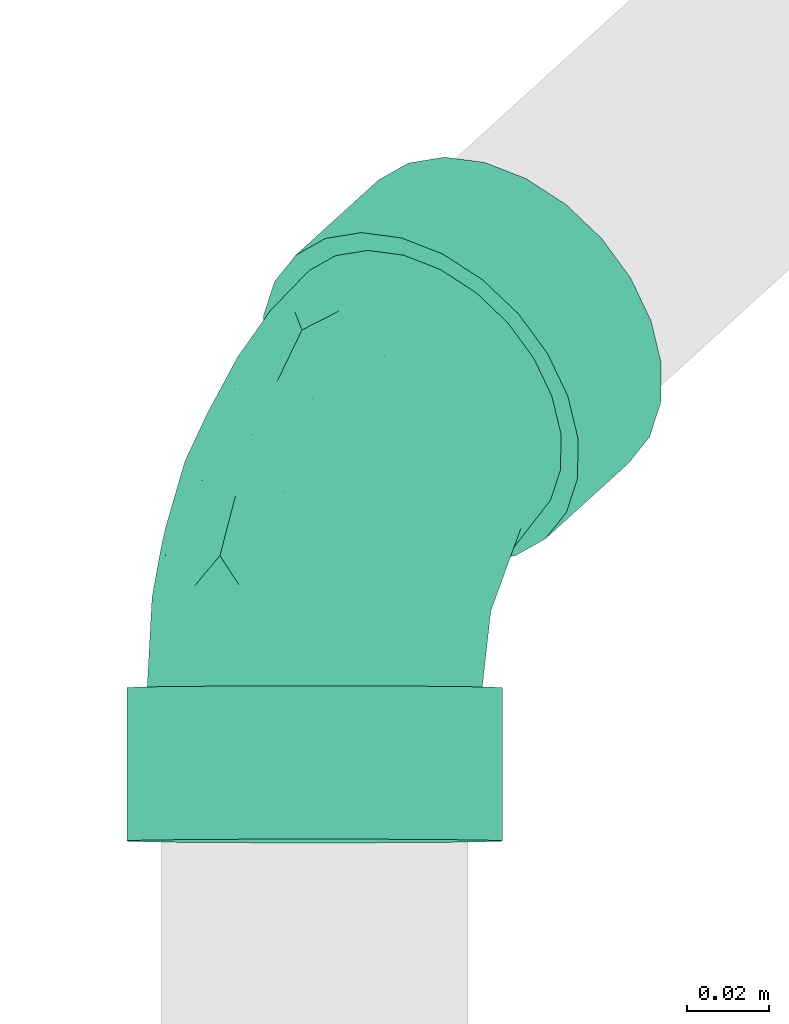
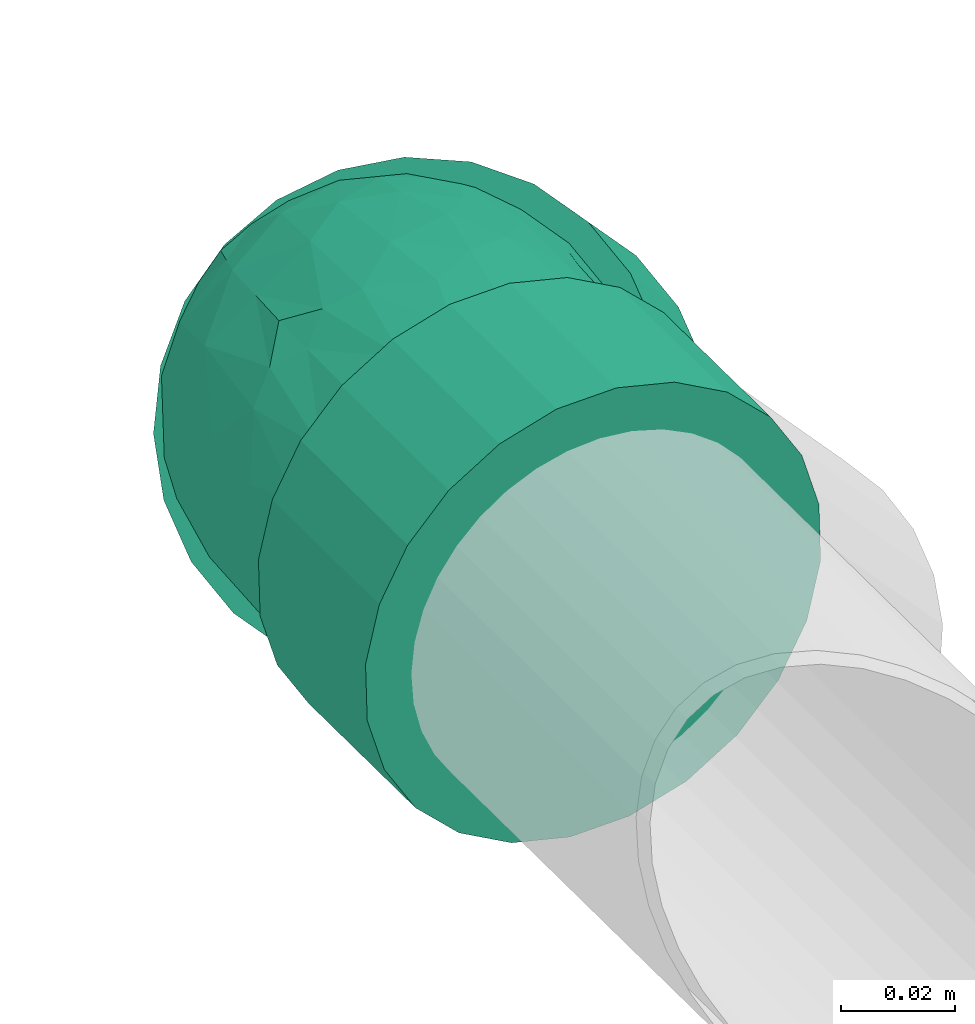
# One storey, part 15 of 17: 1 flow fitting.
"""IFC2X3 building model written with IfcOpenShell, lengths in millimetres."""

from ifc_helpers import new_model, entity, si_unit, converted_unit, derived_unit, direction, frame, origin_with_axes, place, context, subcontext, project, spatial, open_shell, surface_model, source, transform, mapped, type_object, element, save


model = new_model("IFC2X3")

# Units and contexts
model_context = context("Model", 3, precision=0.01, world=frame((0.0, 4.29681676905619e-09, 0.0)), true_north=direction((4.01073788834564e-13, 1.0)))
plan_context = context("Plan", 3, precision=0.01, world=frame((0.0, 4.29681676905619e-09, 0.0)), true_north=direction((4.01073788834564e-13, 1.0)))
body_context = subcontext(model_context, "Body", "Model", "MODEL_VIEW")
ifc_project = project(units=[converted_unit("PLANEANGLEUNIT", "DEGREE", entity("IfcPositiveLengthMeasure", 0.0174532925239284), si_unit("PLANEANGLEUNIT", "RADIAN"), dimensions=[0, 0, 0, 0, 0, 0, 0]), si_unit("AREAUNIT", "SQUARE_METRE"), si_unit("LENGTHUNIT", "METRE", prefix="MILLI"), si_unit("MASSUNIT", "GRAM", prefix="KILO"), si_unit("POWERUNIT", "WATT"), si_unit("PRESSUREUNIT", "PASCAL", prefix="KILO"), si_unit("FORCEUNIT", "NEWTON", prefix="KILO"), si_unit("ELECTRICVOLTAGEUNIT", "VOLT"), si_unit("ELECTRICCURRENTUNIT", "AMPERE"), si_unit("THERMODYNAMICTEMPERATUREUNIT", "DEGREE_CELSIUS"), si_unit("TIMEUNIT", "SECOND"), si_unit("VOLUMEUNIT", "CUBIC_METRE"), derived_unit("LINEARVELOCITYUNIT", [(si_unit("LENGTHUNIT", "METRE"), 1), (si_unit("TIMEUNIT", "SECOND"), -1)]), derived_unit("VOLUMETRICFLOWRATEUNIT", [(si_unit("VOLUMEUNIT", "CUBIC_METRE"), 1), (si_unit("TIMEUNIT", "SECOND"), -1)]), derived_unit("THERMALTRANSMITTANCEUNIT", [(si_unit("POWERUNIT", "WATT"), 1), (si_unit("THERMODYNAMICTEMPERATUREUNIT", "KELVIN"), -1), (si_unit("AREAUNIT", "SQUARE_METRE"), -1)]), derived_unit("SOUNDPRESSUREUNIT", [(si_unit("PRESSUREUNIT", "PASCAL"), 1)])], contexts=[model_context, plan_context])

# Site, building, storey
site_placement = place(None, frame((0.0, -4.29681676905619e-09, 0.0), z_axis=(0.0, 0.0, 1.0), x_axis=(1.0, 0.0, 0.0)))
site = spatial("IfcSite", under=ifc_project, at=site_placement, Name="ENGM", CompositionType="ELEMENT")
building_placement = place(site_placement, frame((0.0, 4.29681676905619e-09, 0.0), z_axis=(0.0, 0.0, 1.0), x_axis=(1.0, 0.0, 0.0)))
building = spatial("IfcBuilding", under=site, at=building_placement, Name="TI", CompositionType="ELEMENT")
storey_placement = place(building_placement, frame((0.0, 0.0, 207370.0), z_axis=(0.0, 0.0, 1.0), x_axis=(1.0, 0.0, 0.0)))
storey = spatial("IfcBuildingStorey", under=building, at=storey_placement, Name="Nivå E", CompositionType="ELEMENT", Elevation=207370.0)

# Flow fitting
pipe_fitting_type = type_object("IfcPipeFittingType", Name="magi_sewer_bend_001", PredefinedType="BEND")
shared_shape = source(origin_with_axes(), body_context, "Body", "SurfaceModel", [
    surface_model("IfcShellBasedSurfaceModel", [(-85.16683, -44.67407, -11.97038), (-85.16683, -11.97038, -44.67407), (-85.16683, -23.125, -40.05367), (-85.16683, -32.70369, -32.70369), (-85.16683, 0.0, -46.25), (-85.16683, -40.05367, -23.125), (-85.16683, -46.25, 0.0), (-85.16683, 11.97038, -44.67407), (-85.16683, 32.70369, -32.70369), (-85.16683, 23.125, -40.05367), (-85.16683, 44.67407, -11.97038), (-85.16683, 40.05367, -23.125), (-85.16683, -32.70369, 32.70369), (-85.16683, -44.67407, 11.97038), (-85.16683, -40.05367, 23.125), (-85.16683, 40.05367, 23.125), (-85.16683, -23.125, 40.05367), (-85.16683, -11.97038, 44.67407), (-85.16683, 0.0, 46.25), (-85.16683, 11.97038, 44.67407), (-85.16683, 44.67407, 11.97038), (-85.16683, 46.25, 0.0), (-85.16683, 23.125, 40.05367), (-85.16683, 32.70369, 32.70369), (-47.66684, 0.0, 46.25), (-47.66684, -11.97038, 44.67407), (-47.66684, -23.125, 40.05367), (-47.66684, -32.70369, 32.70369), (-47.66684, -40.05367, 23.125), (-47.66684, -44.67407, 11.97038), (-47.66684, 40.05367, 23.125), (-47.66684, -44.67407, -11.97038), (-47.66684, 23.125, 40.05367), (-47.66684, 32.70369, 32.70369), (-47.66684, 11.97038, 44.67407), (-47.66684, 44.67407, 11.97038), (-47.66684, 44.67407, -11.97038), (-47.66684, 46.25, 0.0), (-47.66684, -32.70369, -32.70369), (-47.66684, -40.05367, -23.125), (-47.66684, -23.125, -40.05367), (-47.66684, -11.97038, -44.67407), (-47.66684, 11.97038, -44.67407), (-47.66684, 32.70369, -32.70369), (-47.66684, 40.05367, -23.125), (-47.66684, 23.125, -40.05367), (-47.66684, 0.0, -46.25), (-47.66684, -46.25, 0.0), (32.16539, 79.76257, 44.67407), (3.83263, 96.09617, 11.97038), (7.8355, 93.78854, 23.125), (14.20314, 90.11766, 32.70369), (2.46733, 96.88325, 0.0), (22.50161, 85.33365, 40.05367), (42.53589, 73.78406, 46.25), (7.8355, 93.78854, -23.125), (3.83263, 96.09617, -11.97038), (14.20314, 90.11766, -32.70369), (32.16539, 79.76257, -44.67407), (22.50161, 85.33365, -40.05367), (52.9064, 67.80555, 44.67407), (62.57018, 62.23446, 40.05367), (70.86865, 57.45046, 32.70369), (81.23915, 51.47195, -11.97038), (81.23915, 51.47195, 11.97038), (82.60446, 50.68487, 0.0), (77.23629, 53.77957, 23.125), (52.9064, 67.80555, -44.67407), (42.53589, 73.78406, -46.25), (62.57018, 62.23446, -40.05367), (77.23629, 53.77957, -23.125), (70.86865, 57.45046, -32.70369), (62.51008, 18.98393, -11.97038), (63.87538, 18.19684, 0.0), (62.51008, 18.98393, 11.97038), (58.50721, 21.29155, 23.125), (43.8411, 29.74644, 40.05367), (34.17733, 35.31752, 44.67407), (52.13957, 24.96244, 32.70369), (13.43631, 47.27454, 44.67407), (43.8411, 29.74644, -40.05367), (58.50721, 21.29155, -23.125), (52.13957, 24.96244, -32.70369), (34.17733, 35.31752, -44.67407), (13.43631, 47.27454, -44.67407), (23.80682, 41.29603, -46.25), (-4.52593, 57.62963, 32.70369), (3.77254, 52.84563, 40.05367), (-10.89357, 61.30052, 23.125), (-14.89644, 63.60814, 11.97038), (-4.52593, 57.62963, -32.70369), (3.77254, 52.84563, -40.05367), (-14.89644, 63.60814, -11.97038), (-10.89357, 61.30052, -23.125), (-16.26174, 64.39523, 0.0), (23.80682, 41.29603, 46.25), (-47.66684, 10.67629, -39.84444), (-47.66684, 0.0, -41.25), (-47.66684, 35.72355, -20.625), (-47.66684, 20.625, -35.72355), (-47.66684, -10.67629, -39.84444), (-47.66684, 29.16816, -29.16816), (-47.66684, 39.84444, -10.67629), (-47.66684, -29.16816, -29.16816), (-47.66684, -35.72355, -20.625), (-47.66684, -20.625, -35.72355), (-47.66684, -39.84444, -10.67629), (-47.66684, -41.25, 0.0), (-47.66684, -39.84444, 10.67629), (-47.66684, 41.25, 0.0), (-47.66684, 35.72355, 20.625), (-47.66684, 39.84444, 10.67629), (-47.66684, 10.67629, 39.84444), (-47.66684, 20.625, 35.72355), (-47.66684, 29.16816, 29.16816), (-47.66684, -35.72355, 20.625), (-47.66684, -29.16816, 29.16816), (-47.66684, -10.67629, 39.84444), (-47.66684, -20.625, 35.72355), (-47.66684, 0.0, 41.25), (14.55745, 46.62822, -39.84444), (41.67523, 30.99504, -35.72355), (23.80682, 41.29603, -41.25), (5.93841, 51.59703, -35.72355), (-1.46293, 55.86384, -29.16816), (-7.14218, 59.13787, -20.625), (-10.7123, 61.19602, -10.67629), (58.32595, 21.39605, -10.67629), (54.75582, 23.45419, -20.625), (49.07657, 26.72823, -29.16816), (33.05619, 35.96385, -39.84444), (58.32595, 21.39605, 10.67629), (59.54364, 20.69405, 0.0), (-11.93001, 61.89802, 0.0), (-10.7123, 61.19602, 10.67629), (-7.14218, 59.13787, 20.625), (-1.46293, 55.86384, 29.16816), (5.93841, 51.59703, 35.72355), (14.55745, 46.62822, 39.84444), (49.07657, 26.72823, 29.16816), (23.80682, 41.29603, 41.25), (54.75582, 23.45419, 20.625), (33.05619, 35.96385, 39.84444), (41.67523, 30.99504, 35.72355), (-33.54078, -32.49787, 24.25952), (-25.30859, -36.65665, 14.18008), (-15.4186, -29.61689, 23.11892), (-27.27692, -38.56395, 0.0), (-15.61873, -37.02816, 0.0), (-22.85301, -38.14228, 6.90652), (-27.53637, -4.67296, 40.65737), (-24.21007, 6.99271, 41.10689), (1.33124, 35.26024, 38.64066), (6.03341, 24.46678, 41.10689), (-25.45423, -24.13312, 31.67705), (-17.93693, -13.38127, 37.17123), (-34.96365, -15.86375, 37.7269), (-8.25804, -22.40198, 28.77082), (-12.71065, -18.17985, 33.49516), (-28.87635, 26.78163, 33.76307), (-0.01306, 4.50243, 40.27778), (33.97479, 10.44852, 31.70479), (-21.95751, 38.00325, 27.08743), (-34.45765, 35.38395, 23.97489), (2.97105, -28.23164, 12.65513), (11.40782, -19.43472, 21.31607), (-20.82032, 46.26712, 17.39043), (-12.81181, 22.17422, 39.20438), (-31.21249, 16.45713, 38.64066), (-28.2578, 44.89392, 9.33159), (-34.96392, 39.46265, 16.90455), (4.2615, -5.11101, 36.43301), (22.06181, 10.50131, 37.24564), (44.39757, 3.61816, 14.18008), (-10.94351, 47.88404, 25.98879), (17.80122, 21.52219, 40.65737), (25.32927, -14.59983, 13.50218), (27.06129, -14.80644, 0.0), (44.45821, 0.74879, 6.90652), (44.90611, 12.82716, 24.25952), (-8.78013, 38.39282, 33.76307), (-0.68802, -30.83944, 0.0), (-8.43103, 14.59211, 41.04851), (19.38291, -1.07733, 33.07575), (33.3592, -1.43406, 23.11892), (-27.03033, 46.7831, 0.0), (14.24268, -24.65071, 0.0), (47.03301, 4.37083, 0.0), (7.82423, -13.54189, 29.89735), (39.8799, -4.96218, 0.0), (-20.11638, -13.8684, -37.24564), (22.97454, -16.67403, -12.65513), (44.39757, 3.61816, -14.18008), (44.45821, 0.74879, -6.90652), (6.03341, 24.46678, -41.10689), (-24.21007, 6.99271, -41.10689), (-29.68485, 41.14537, -17.39043), (-21.95751, 38.00325, -27.08743), (-36.01857, 33.39618, -25.98879), (17.80122, 21.52219, -40.65737), (-28.87635, 26.78163, -33.76307), (44.90611, 12.82716, -24.25952), (-8.78013, 38.39281, -33.76307), (-25.30859, -36.65665, -14.18008), (-31.21249, 16.45713, -38.64066), (-33.54078, -32.49787, -24.25952), (-16.72592, 50.0002, -16.90455), (-22.85301, -38.14228, -6.90651), (-0.00198, -29.23571, -13.50218), (11.13967, -19.58965, -21.31607), (-26.02048, -24.21554, -31.70479), (2.29954, -6.24459, -36.43301), (-3.89414, 2.26002, -40.27778), (20.55128, 8.85645, -37.17123), (-8.43103, 14.59211, -41.04851), (-12.81181, 22.17421, -39.20438), (-27.53637, -4.67296, -40.65737), (-8.7473, -17.33039, -33.07575), (-15.4186, -29.61689, -23.11892), (-24.78059, 46.90298, -9.33159), (-13.4452, 47.52452, -23.97489), (1.33124, 35.26024, -38.64066), (33.3592, -1.43406, -23.11892), (33.62057, 9.99911, -31.67705), (23.53231, -4.03416, -28.77082), (22.0983, 1.93206, -33.49516), (31.20584, 22.36764, -37.7269), (7.82423, -13.54189, -29.89735)], [open_shell([[[0, 1, 2]], [[0, 2, 3]], [[1, 0, 4]], [[0, 3, 5]], [[4, 0, 6]], [[7, 8, 9]], [[8, 7, 4]], [[8, 10, 11]], [[10, 8, 4]], [[4, 6, 10]], [[6, 12, 10]], [[13, 14, 12]], [[10, 12, 15]], [[16, 17, 18]], [[16, 18, 12]], [[19, 12, 18]], [[10, 20, 21]], [[15, 20, 10]], [[15, 22, 23]], [[22, 15, 19]], [[12, 19, 15]], [[6, 13, 12]], [[24, 25, 26]], [[24, 26, 27]], [[27, 28, 29]], [[24, 27, 30]], [[27, 31, 30]], [[32, 30, 33]], [[30, 32, 34]], [[35, 36, 37]], [[30, 34, 24]], [[35, 30, 36]], [[27, 29, 31]], [[36, 30, 31]], [[38, 31, 39]], [[40, 41, 31]], [[40, 31, 38]], [[42, 31, 41]], [[36, 43, 44]], [[36, 31, 43]], [[43, 42, 45]], [[31, 42, 43]], [[41, 46, 42]], [[31, 29, 47]], [[36, 10, 37]], [[44, 11, 36]], [[9, 43, 45]], [[44, 43, 8]], [[7, 45, 42]], [[36, 11, 10]], [[10, 21, 37]], [[7, 9, 45]], [[8, 43, 9]], [[8, 11, 44]], [[4, 7, 42]], [[42, 46, 4]], [[46, 41, 1]], [[5, 39, 31]], [[39, 3, 38]], [[0, 31, 47]], [[1, 40, 2]], [[40, 1, 41]], [[40, 38, 2]], [[38, 3, 2]], [[39, 5, 3]], [[0, 5, 31]], [[47, 6, 0]], [[46, 1, 4]], [[29, 13, 47]], [[28, 14, 29]], [[16, 27, 26]], [[28, 27, 12]], [[17, 26, 25]], [[29, 14, 13]], [[13, 6, 47]], [[17, 16, 26]], [[12, 27, 16]], [[12, 14, 28]], [[18, 17, 25]], [[25, 24, 18]], [[33, 22, 32]], [[35, 15, 30]], [[33, 30, 23]], [[20, 35, 37]], [[32, 19, 34]], [[32, 22, 19]], [[19, 18, 34]], [[33, 23, 22]], [[30, 15, 23]], [[20, 15, 35]], [[37, 21, 20]], [[34, 18, 24]], [[48, 49, 50]], [[48, 50, 51]], [[49, 48, 52]], [[48, 51, 53]], [[52, 48, 54]], [[52, 55, 56]], [[55, 52, 57]], [[57, 58, 59]], [[58, 57, 52]], [[52, 54, 58]], [[54, 60, 58]], [[60, 61, 62]], [[62, 63, 58]], [[64, 65, 62]], [[64, 62, 66]], [[63, 62, 65]], [[58, 67, 68]], [[69, 67, 58]], [[69, 70, 71]], [[70, 69, 63]], [[63, 69, 58]], [[58, 60, 62]], [[72, 73, 74]], [[75, 72, 74]], [[76, 77, 75]], [[76, 75, 78]], [[75, 79, 80]], [[81, 80, 82]], [[80, 81, 72]], [[83, 84, 85]], [[80, 72, 75]], [[83, 80, 84]], [[75, 77, 79]], [[84, 80, 79]], [[86, 79, 87]], [[86, 88, 89]], [[86, 89, 79]], [[90, 79, 89]], [[84, 90, 91]], [[84, 79, 90]], [[89, 92, 93]], [[93, 90, 89]], [[92, 89, 94]], [[79, 77, 95]], [[84, 58, 85]], [[91, 59, 84]], [[55, 90, 93]], [[91, 90, 57]], [[56, 93, 92]], [[84, 59, 58]], [[58, 68, 85]], [[56, 55, 93]], [[57, 90, 55]], [[57, 59, 91]], [[52, 56, 92]], [[92, 94, 52]], [[94, 89, 49]], [[53, 87, 79]], [[87, 51, 86]], [[48, 79, 95]], [[49, 88, 50]], [[88, 49, 89]], [[88, 86, 50]], [[86, 51, 50]], [[87, 53, 51]], [[48, 53, 79]], [[95, 54, 48]], [[94, 49, 52]], [[77, 60, 95]], [[76, 61, 77]], [[66, 78, 75]], [[76, 78, 62]], [[64, 75, 74]], [[77, 61, 60]], [[60, 54, 95]], [[64, 66, 75]], [[62, 78, 66]], [[62, 61, 76]], [[65, 64, 74]], [[74, 73, 65]], [[82, 70, 81]], [[83, 69, 80]], [[82, 80, 71]], [[67, 83, 85]], [[81, 63, 72]], [[81, 70, 63]], [[63, 65, 72]], [[82, 71, 70]], [[80, 69, 71]], [[67, 69, 83]], [[85, 68, 67]], [[72, 65, 73]], [[96, 97, 98]], [[99, 96, 98]], [[100, 98, 97]], [[101, 99, 98]], [[102, 98, 100]], [[103, 104, 105]], [[100, 105, 104]], [[104, 106, 100]], [[106, 102, 100]], [[107, 108, 106]], [[109, 102, 106]], [[110, 111, 109]], [[108, 110, 106]], [[112, 113, 114]], [[108, 114, 110]], [[114, 108, 112]], [[115, 116, 108]], [[117, 108, 116]], [[118, 117, 116]], [[117, 112, 108]], [[117, 119, 112]], [[109, 106, 110]], [[120, 121, 122]], [[123, 121, 120]], [[124, 125, 126]], [[124, 126, 123]], [[126, 127, 123]], [[121, 128, 129]], [[121, 130, 122]], [[121, 127, 128]], [[123, 127, 121]], [[127, 131, 132]], [[127, 126, 133]], [[133, 134, 135]], [[133, 135, 136]], [[136, 137, 138]], [[139, 127, 136]], [[140, 136, 138]], [[131, 139, 141]], [[127, 139, 131]], [[139, 142, 143]], [[142, 139, 140]], [[136, 140, 139]], [[136, 127, 133]], [[144, 145, 146]], [[147, 148, 149]], [[119, 150, 151]], [[138, 152, 153]], [[154, 155, 156]], [[157, 158, 154]], [[114, 113, 159]], [[150, 160, 151]], [[118, 156, 117]], [[138, 137, 152]], [[139, 143, 161]], [[112, 119, 151]], [[145, 115, 108]], [[162, 163, 159]], [[146, 164, 165]], [[163, 162, 166]], [[167, 168, 151]], [[164, 145, 149]], [[118, 116, 154]], [[169, 111, 170]], [[116, 115, 144]], [[109, 111, 169]], [[166, 170, 163]], [[160, 171, 172]], [[112, 168, 113]], [[141, 173, 131]], [[145, 164, 146]], [[136, 135, 174]], [[140, 153, 175]], [[176, 177, 178]], [[179, 141, 139]], [[142, 140, 175]], [[108, 147, 149]], [[173, 141, 179]], [[162, 159, 180]], [[172, 161, 143]], [[167, 180, 159]], [[178, 131, 173]], [[149, 181, 164]], [[167, 152, 180]], [[182, 160, 153]], [[135, 134, 166]], [[183, 184, 161]], [[166, 162, 174]], [[119, 117, 150]], [[185, 169, 133]], [[110, 170, 111]], [[153, 140, 138]], [[175, 160, 172]], [[180, 136, 174]], [[134, 133, 169]], [[137, 136, 180]], [[143, 142, 172]], [[151, 182, 167]], [[168, 159, 113]], [[186, 176, 164]], [[164, 176, 165]], [[171, 160, 155]], [[176, 173, 184]], [[131, 178, 187]], [[144, 154, 116]], [[157, 154, 146]], [[165, 184, 188]], [[189, 178, 177]], [[183, 161, 172]], [[179, 161, 184]], [[156, 150, 117]], [[160, 150, 155]], [[160, 175, 153]], [[172, 142, 175]], [[151, 168, 112]], [[159, 168, 167]], [[180, 152, 137]], [[153, 152, 167]], [[184, 165, 176]], [[165, 188, 157]], [[170, 110, 163]], [[169, 170, 166]], [[134, 169, 166]], [[169, 185, 109]], [[110, 114, 163]], [[159, 163, 114]], [[108, 107, 147]], [[165, 157, 146]], [[108, 149, 145]], [[187, 178, 189]], [[187, 132, 131]], [[176, 178, 173]], [[166, 174, 135]], [[180, 174, 162]], [[145, 144, 115]], [[154, 144, 146]], [[161, 179, 139]], [[173, 179, 184]], [[154, 156, 118]], [[150, 156, 155]], [[158, 155, 154]], [[183, 171, 188]], [[160, 182, 151]], [[153, 167, 182]], [[181, 149, 148]], [[181, 186, 164]], [[188, 171, 158]], [[188, 158, 157]], [[171, 155, 158]], [[176, 186, 177]], [[171, 183, 172]], [[184, 183, 188]], [[190, 105, 100]], [[191, 192, 193]], [[120, 122, 194]], [[195, 97, 96]], [[196, 197, 198]], [[122, 199, 194]], [[99, 101, 200]], [[129, 128, 201]], [[101, 98, 198]], [[124, 123, 202]], [[104, 203, 106]], [[204, 96, 99]], [[203, 104, 205]], [[125, 206, 126]], [[207, 106, 203]], [[191, 208, 209]], [[210, 105, 190]], [[208, 181, 207]], [[210, 103, 105]], [[211, 212, 213]], [[194, 214, 215]], [[103, 205, 104]], [[216, 100, 97]], [[191, 186, 208]], [[214, 212, 195]], [[217, 218, 210]], [[109, 185, 219]], [[193, 177, 191]], [[133, 126, 219]], [[102, 109, 219]], [[102, 196, 98]], [[206, 220, 196]], [[220, 197, 196]], [[216, 97, 195]], [[123, 120, 221]], [[96, 204, 195]], [[200, 101, 198]], [[197, 220, 202]], [[192, 128, 127]], [[194, 215, 221]], [[194, 199, 212]], [[222, 191, 209]], [[223, 224, 225]], [[226, 223, 213]], [[212, 211, 190]], [[226, 130, 121]], [[222, 201, 192]], [[216, 212, 190]], [[193, 187, 189]], [[215, 204, 200]], [[197, 202, 200]], [[191, 222, 192]], [[122, 130, 199]], [[121, 129, 223]], [[215, 200, 202]], [[206, 219, 126]], [[127, 187, 193]], [[221, 202, 123]], [[208, 203, 218]], [[106, 207, 147]], [[201, 223, 129]], [[224, 223, 222]], [[209, 218, 227]], [[148, 207, 181]], [[217, 210, 190]], [[205, 210, 218]], [[226, 199, 130]], [[212, 199, 213]], [[212, 216, 195]], [[190, 100, 216]], [[200, 204, 99]], [[195, 204, 215]], [[194, 221, 120]], [[202, 221, 215]], [[218, 209, 208]], [[209, 227, 224]], [[206, 125, 220]], [[219, 206, 196]], [[102, 219, 196]], [[219, 185, 133]], [[125, 124, 220]], [[202, 220, 124]], [[147, 207, 148]], [[147, 107, 106]], [[208, 207, 203]], [[127, 132, 187]], [[209, 224, 222]], [[127, 193, 192]], [[196, 198, 98]], [[200, 198, 197]], [[192, 201, 128]], [[223, 201, 222]], [[210, 205, 103]], [[203, 205, 218]], [[223, 226, 121]], [[199, 226, 213]], [[225, 213, 223]], [[217, 211, 227]], [[212, 214, 194]], [[195, 215, 214]], [[177, 193, 189]], [[177, 186, 191]], [[227, 211, 225]], [[227, 225, 224]], [[211, 213, 225]], [[208, 186, 181]], [[211, 217, 190]], [[218, 217, 227]]])]),
])
flow_fitting_placement = place(storey_placement, frame((592114.02575, 573465.81885, 2706.44083000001), z_axis=(-0.77934398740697, -0.00626599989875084, -0.62656498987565), x_axis=(9.48017371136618e-07, 0.999949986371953, -0.0100012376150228)))
element("IfcFlowFitting", 1, at=flow_fitting_placement, inside=storey, type_object=pipe_fitting_type, Name="magi_sewer_bend_001", context=body_context, shape_type="MappedRepresentation", body=[
    mapped(shared_shape, transform((0.0, 0.0, 0.0), scale=1.0)),
])

save(model, "model.ifc")
